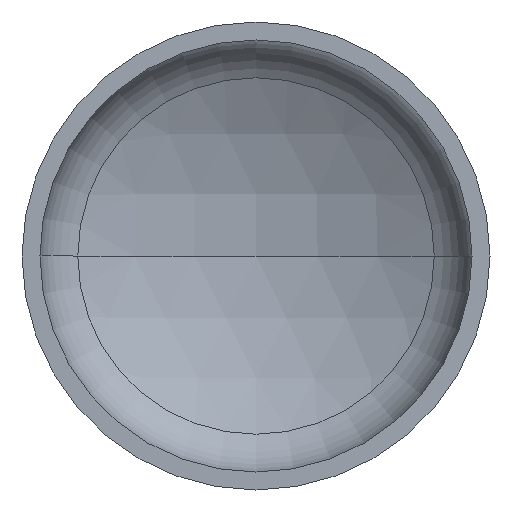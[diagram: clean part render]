
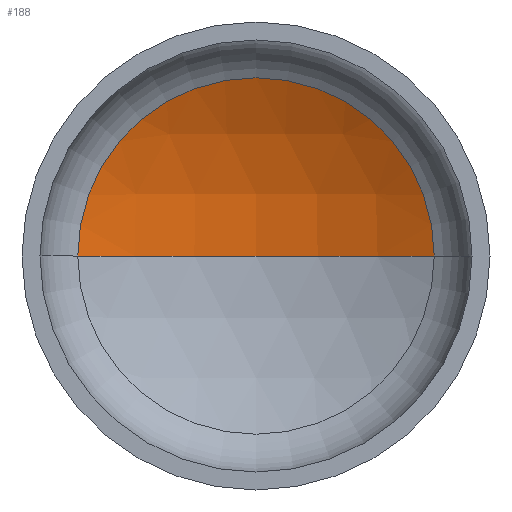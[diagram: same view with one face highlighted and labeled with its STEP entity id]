
A CAD part, front view. The second image highlights one B-rep face of the part: STEP entity #188.
In plain terms, the highlighted spherical face has radius 960 mm.
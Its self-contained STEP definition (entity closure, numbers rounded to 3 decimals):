
#1 = DIRECTION ( 'NONE',  ( 0., -1., 0. ) ) ;
#5 = DIRECTION ( 'NONE',  ( 0., 0., -1. ) ) ;
#6 = VERTEX_POINT ( 'NONE', #354 ) ;
#8 = CARTESIAN_POINT ( 'NONE',  ( 0., -541.516, 0. ) ) ;
#15 = EDGE_LOOP ( 'NONE', ( #135, #78, #43 ) ) ;
#18 = AXIS2_PLACEMENT_3D ( 'NONE', #260, #273, #193 ) ;
#28 = AXIS2_PLACEMENT_3D ( 'NONE', #232, #252, #409 ) ;
#32 = AXIS2_PLACEMENT_3D ( 'NONE', #8, #5, #276 ) ;
#33 = AXIS2_PLACEMENT_3D ( 'NONE', #179, #1, #407 ) ;
#38 = CIRCLE ( 'NONE', #28, 960. ) ;
#43 = ORIENTED_EDGE ( 'NONE', *, *, #93, .T. ) ;
#78 = ORIENTED_EDGE ( 'NONE', *, *, #94, .T. ) ;
#93 = EDGE_CURVE ( 'NONE', #118, #6, #131, .T. ) ;
#94 = EDGE_CURVE ( 'NONE', #109, #118, #383, .T. ) ;
#97 = EDGE_CURVE ( 'NONE', #109, #6, #38, .T. ) ;
#109 = VERTEX_POINT ( 'NONE', #225 ) ;
#118 = VERTEX_POINT ( 'NONE', #216 ) ;
#131 = CIRCLE ( 'NONE', #33, 457.084 ) ;
#135 = ORIENTED_EDGE ( 'NONE', *, *, #97, .F. ) ;
#179 = CARTESIAN_POINT ( 'NONE',  ( 0., 302.684, 0. ) ) ;
#188 = ADVANCED_FACE ( 'NONE', ( #325 ), #204, .F. ) ;
#193 = DIRECTION ( 'NONE',  ( -1., 0., 0. ) ) ;
#204 = SPHERICAL_SURFACE ( 'NONE', #18, 960. ) ;
#216 = CARTESIAN_POINT ( 'NONE',  ( 457.084, 302.684, 0. ) ) ;
#225 = CARTESIAN_POINT ( 'NONE',  ( 0., 418.484, 0. ) ) ;
#232 = CARTESIAN_POINT ( 'NONE',  ( 0., -541.516, 0. ) ) ;
#252 = DIRECTION ( 'NONE',  ( 0., 0., 1. ) ) ;
#260 = CARTESIAN_POINT ( 'NONE',  ( 0., -541.516, 0. ) ) ;
#273 = DIRECTION ( 'NONE',  ( 0., 0., -1. ) ) ;
#276 = DIRECTION ( 'NONE',  ( -1., 0., 0. ) ) ;
#325 = FACE_OUTER_BOUND ( 'NONE', #15, .T. ) ;
#354 = CARTESIAN_POINT ( 'NONE',  ( -457.084, 302.684, 0. ) ) ;
#383 = CIRCLE ( 'NONE', #32, 960. ) ;
#407 = DIRECTION ( 'NONE',  ( 1., 0., 0. ) ) ;
#409 = DIRECTION ( 'NONE',  ( 1., 0., 0. ) ) ;
